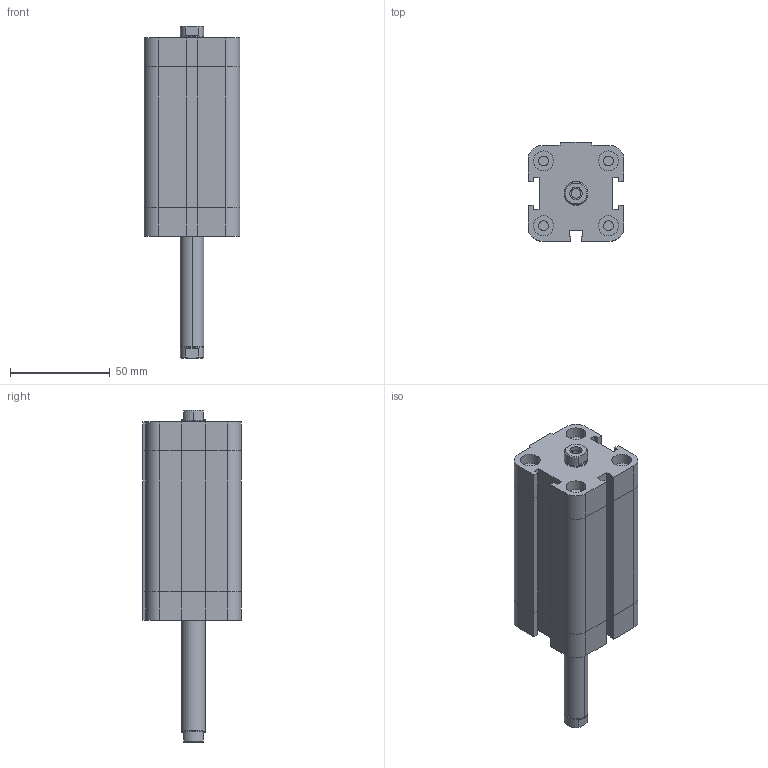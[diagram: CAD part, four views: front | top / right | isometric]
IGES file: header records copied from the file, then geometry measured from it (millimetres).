
Global section: file name: No Iges File Name specified; native system: Autodesk Inventor 2009; preprocessor: AutoDesk Inventor Iges Exporter R2009; author: maffial1; date: 20090420.200342; units: millimetre
Bounding box: 48 x 49.5 x 166.5 mm (x, y, z)
Volume: 209101.3 mm3; surface area: 41267.9 mm2
Topology: 2 solids, 2 shells, 202 faces, 450 edges, 274 vertices
Faces by surface type: plane 114, bspline 42, revolution 20, cylinder 18, cone 8
